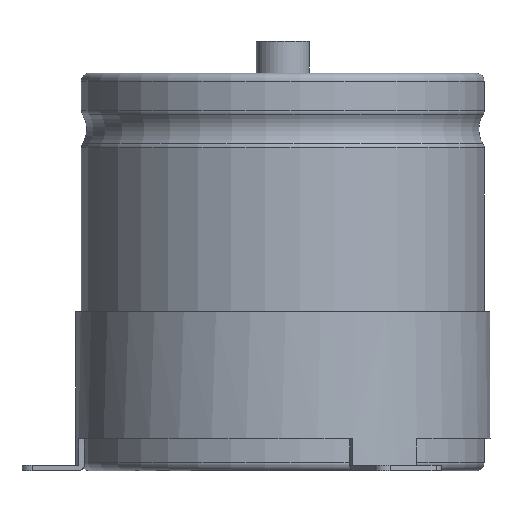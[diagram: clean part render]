
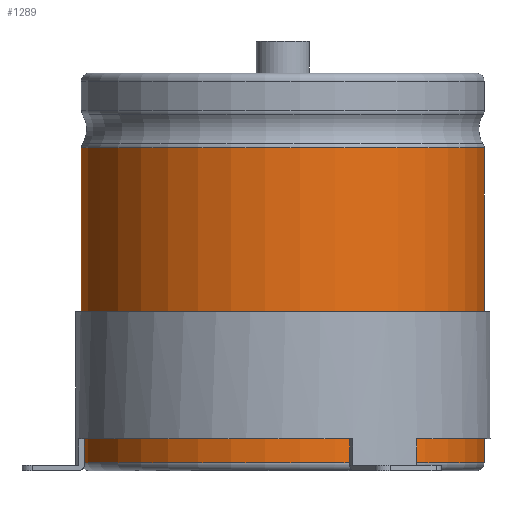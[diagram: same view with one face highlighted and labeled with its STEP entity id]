
A CAD part, front view. The second image highlights one B-rep face of the part: STEP entity #1289.
In plain terms, the highlighted cylindrical face has radius 38.1 mm (diameter 76.2 mm), a partial arc.
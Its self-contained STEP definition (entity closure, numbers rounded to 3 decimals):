
#233=LINE('',#6601,#447);
#234=LINE('',#6605,#448);
#447=VECTOR('',#5224,1.);
#448=VECTOR('',#5227,1.);
#695=FACE_OUTER_BOUND('',#1741,.T.);
#1289=ADVANCED_FACE('',(#695),#1519,.T.);
#1519=CYLINDRICAL_SURFACE('',#4585,38.1);
#1741=EDGE_LOOP('',(#2147,#2148,#2149,#2150));
#2147=ORIENTED_EDGE('',*,*,#3702,.T.);
#2148=ORIENTED_EDGE('',*,*,#3703,.T.);
#2149=ORIENTED_EDGE('',*,*,#3704,.F.);
#2150=ORIENTED_EDGE('',*,*,#3705,.F.);
#3274=VERTEX_POINT('',#6594);
#3276=VERTEX_POINT('',#6598);
#3277=VERTEX_POINT('',#6602);
#3278=VERTEX_POINT('',#6604);
#3702=EDGE_CURVE('',#3274,#3276,#4267,.T.);
#3703=EDGE_CURVE('',#3276,#3277,#233,.T.);
#3704=EDGE_CURVE('',#3278,#3277,#4268,.T.);
#3705=EDGE_CURVE('',#3274,#3278,#234,.T.);
#4267=CIRCLE('',#4582,38.1);
#4268=CIRCLE('',#4584,38.1);
#4582=AXIS2_PLACEMENT_3D('',#6599,#5220,#5221);
#4584=AXIS2_PLACEMENT_3D('',#6603,#5225,#5226);
#4585=AXIS2_PLACEMENT_3D('',#6606,#5228,#5229);
#5220=DIRECTION('',(0.,0.,-1.));
#5221=DIRECTION('',(0.,1.,0.));
#5224=DIRECTION('',(0.,0.,-1.));
#5225=DIRECTION('',(0.,0.,-1.));
#5226=DIRECTION('',(0.,1.,0.));
#5227=DIRECTION('',(0.,0.,-1.));
#5228=DIRECTION('',(0.,0.,-1.));
#5229=DIRECTION('',(0.,1.,0.));
#6594=CARTESIAN_POINT('',(3.983,37.891,60.9));
#6598=CARTESIAN_POINT('',(-3.983,37.891,60.9));
#6599=CARTESIAN_POINT('',(0.,0.,60.9));
#6601=CARTESIAN_POINT('',(-3.983,37.891,60.9));
#6602=CARTESIAN_POINT('',(-3.983,37.891,1.5));
#6603=CARTESIAN_POINT('',(0.,0.,1.5));
#6604=CARTESIAN_POINT('',(3.983,37.891,1.5));
#6605=CARTESIAN_POINT('',(3.983,37.891,60.9));
#6606=CARTESIAN_POINT('',(0.,0.,0.));
